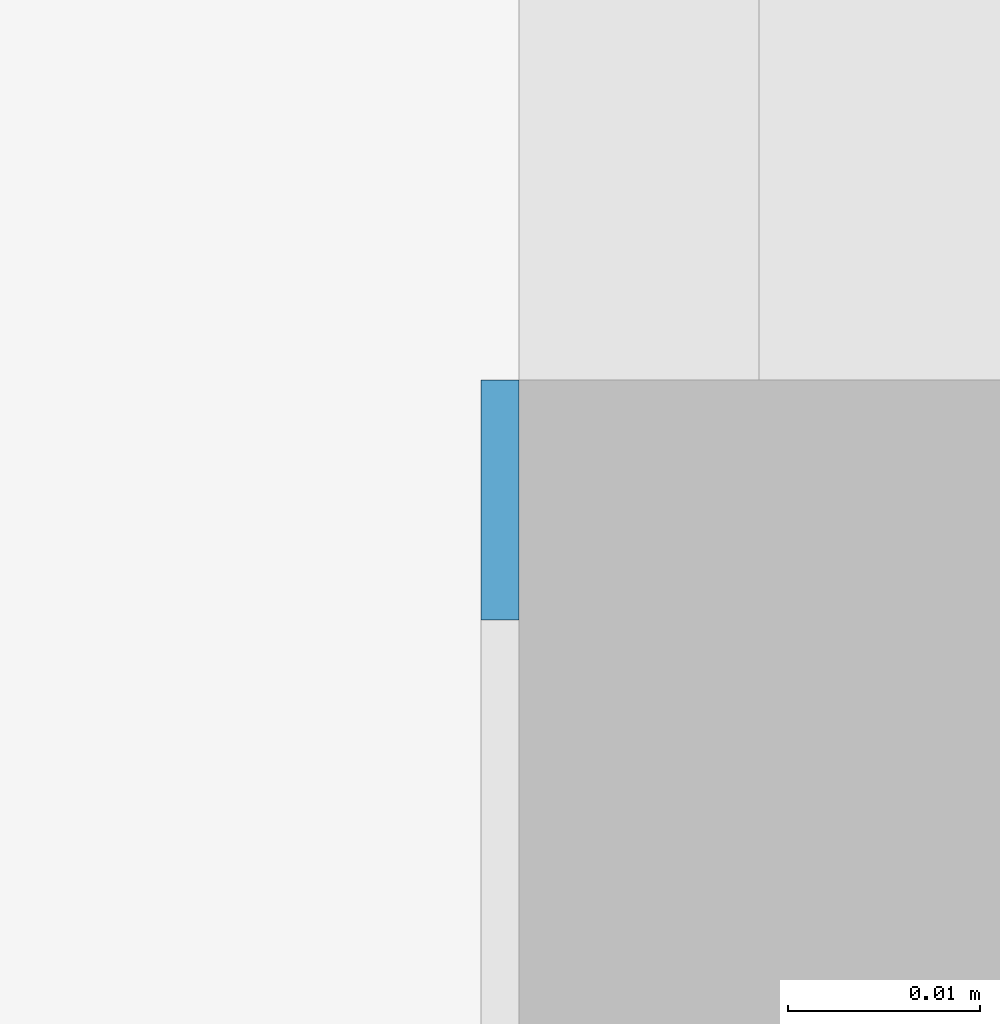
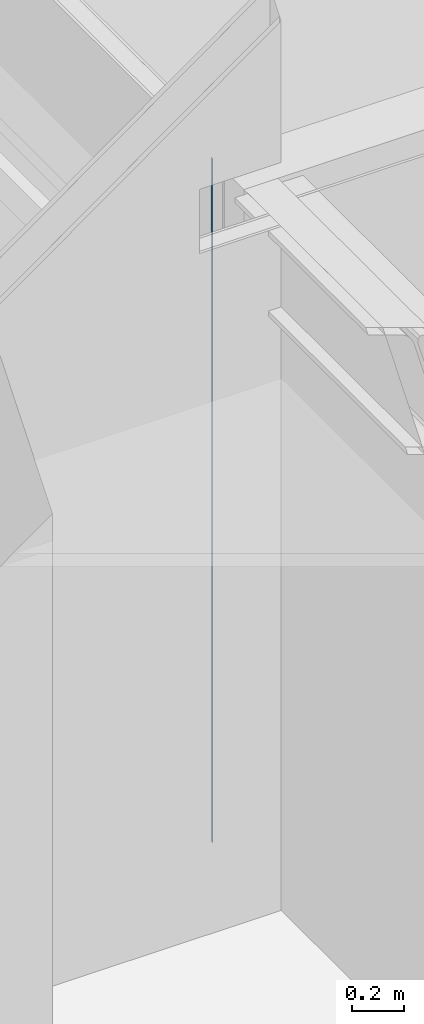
# One storey, part 81 of 117: 1 building element part, 1 element without a shape of its own.
"""IFC2X3 building model written with IfcOpenShell, lengths in millimetres."""

from ifc_helpers import new_model, entity, si_unit, converted_unit, derived_unit, money_unit, direction, frame, origin_with_axes, place, context, subcontext, project, spatial, faceted_brep, material, type_object, element, aggregate, save


model = new_model("IFC2X3")

# Units and contexts
model_context = context("Model", 3, precision=0.01, world=origin_with_axes(), true_north=direction((0.0, 1.0)))
body_context = subcontext(model_context, "Body", "Model", "MODEL_VIEW")
ifc_project = project(units=[si_unit("LENGTHUNIT", "METRE", prefix="MILLI"), si_unit("AREAUNIT", "SQUARE_METRE"), si_unit("VOLUMEUNIT", "CUBIC_METRE"), converted_unit("PLANEANGLEUNIT", "DEGREE", entity("IfcPlaneAngleMeasure", 0.0174532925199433), si_unit("PLANEANGLEUNIT", "RADIAN"), dimensions=[0, 0, 0, 0, 0, 0, 0]), money_unit("EUR"), converted_unit("TIMEUNIT", "Year", entity("IfcTimeMeasure", 31557600.0), si_unit("TIMEUNIT", "SECOND"), dimensions=[0, 0, 1, 0, 0, 0, 0]), si_unit("MASSUNIT", "GRAM", prefix="KILO"), si_unit("THERMODYNAMICTEMPERATUREUNIT", "DEGREE_CELSIUS"), si_unit("LUMINOUSINTENSITYUNIT", "LUMEN"), si_unit("ENERGYUNIT", "JOULE", prefix="MEGA"), derived_unit("THERMALCONDUCTANCEUNIT", [(si_unit("POWERUNIT", "WATT"), 1), (si_unit("LENGTHUNIT", "METRE"), -1), (si_unit("THERMODYNAMICTEMPERATUREUNIT", "KELVIN"), -1)]), derived_unit("SPECIFICHEATCAPACITYUNIT", [(si_unit("ENERGYUNIT", "JOULE"), 1), (si_unit("MASSUNIT", "GRAM", prefix="KILO"), -1), (si_unit("THERMODYNAMICTEMPERATUREUNIT", "KELVIN"), -1)]), derived_unit("MASSDENSITYUNIT", [(si_unit("MASSUNIT", "GRAM", prefix="KILO"), 1), (si_unit("VOLUMEUNIT", "CUBIC_METRE"), -1)])], contexts=[model_context])

# Site, building, storey
site_placement = place(None, origin_with_axes())
site = spatial("IfcSite", under=ifc_project, at=site_placement, Name="Site", CompositionType="ELEMENT")
building_placement = place(site_placement, origin_with_axes())
building = spatial("IfcBuilding", under=site, at=building_placement, Name="Naam gebouw", CompositionType="ELEMENT")
storey_placement = place(building_placement, frame((0.0, 0.0, 4150.0), z_axis=(0.0, 0.0, 1.0), x_axis=(1.0, 0.0, 0.0)))
storey = spatial("IfcBuildingStorey", under=building, at=storey_placement, Name="1e verdieping N", CompositionType="ELEMENT", Elevation=4150.0)

# Wall, building element part
wall_type = type_object("IfcWallType", Name="Metalstud iso 100 100", PredefinedType="NOTDEFINED")
wall_placement = place(storey_placement, frame((30456.99999999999, 18150.91242510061, -99.99999999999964), z_axis=(0.0, 0.0, 1.0), x_axis=(-1.0, 0.0, 0.0)))
wall = element("IfcWall", 1, at=wall_placement, inside=storey, type_object=wall_type, Name="_Wand-x")
ifc_material = material(Name="Gipsplaat")
building_element_part_placement = place(wall_placement, origin_with_axes())
building_element_part = element("IfcBuildingElementPart", 2, at=building_element_part_placement, material=ifc_material, Name="Gipsplaat", context=body_context, shape_type="Brep", body=[
    faceted_brep([(149.9999999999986, 12.49999999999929, 99.99999999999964), (149.9999999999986, 0.0, 99.99999999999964), (149.9999999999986, 0.0, 3300.0), (149.9999999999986, 12.49999999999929, 3300.0), (151.9999999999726, 0.0, 99.99999999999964), (151.9999999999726, 12.49999999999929, 99.99999999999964), (151.9999999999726, 0.0, 3300.0), (151.9999999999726, 12.49999999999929, 3300.0)], [[[0, 1, 2, 3]], [[4, 1, 0, 5]], [[1, 4, 6, 2]], [[3, 2, 6, 7]], [[5, 0, 3, 7]], [[4, 5, 7, 6]]]),
])
aggregate(wall, [building_element_part])

save(model, "model.ifc")
